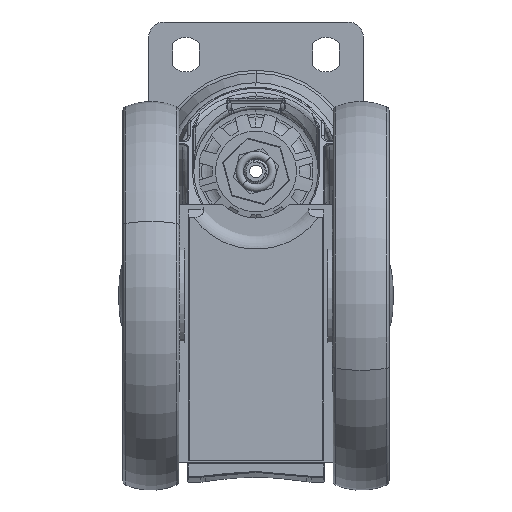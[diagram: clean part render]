
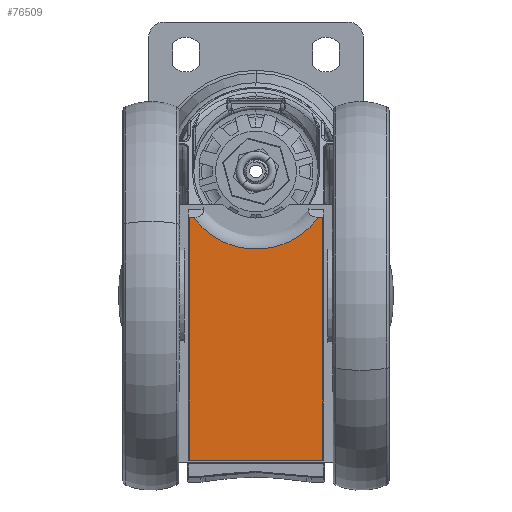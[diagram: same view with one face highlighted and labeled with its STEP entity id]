
A CAD part, front view. The second image highlights one B-rep face of the part: STEP entity #76509.
In plain terms, the highlighted planar face has unit normal (0, -1, 0).
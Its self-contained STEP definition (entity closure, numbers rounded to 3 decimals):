
#76326=DIRECTION('',(0.,0.,1.));
#76327=VECTOR('',#76326,78.014);
#76328=CARTESIAN_POINT('',(-21.45,-14.3,-52.8));
#76329=LINE('',#76328,#76327);
#76330=DIRECTION('',(-1.,0.,0.));
#76331=VECTOR('',#76330,1.291);
#76332=CARTESIAN_POINT('',(-20.159,-14.3,25.214));
#76333=LINE('',#76332,#76331);
#76334=DIRECTION('',(-1.,0.,0.));
#76335=VECTOR('',#76334,1.291);
#76336=CARTESIAN_POINT('',(21.45,-14.3,25.214));
#76337=LINE('',#76336,#76335);
#76338=DIRECTION('',(0.,0.,1.));
#76339=VECTOR('',#76338,78.014);
#76340=CARTESIAN_POINT('',(21.45,-14.3,-52.8));
#76341=LINE('',#76340,#76339);
#76342=DIRECTION('',(-1.,0.,0.));
#76343=VECTOR('',#76342,42.9);
#76344=CARTESIAN_POINT('',(21.45,-14.3,-52.8));
#76345=LINE('',#76344,#76343);
#76365=CARTESIAN_POINT('',(21.45,-14.3,25.214));
#76383=CARTESIAN_POINT('',(20.159,-14.3,25.214));
#76397=CARTESIAN_POINT('',(-21.45,-14.3,25.214));
#76417=CARTESIAN_POINT('',(-20.159,-14.3,25.214));
#76440=CARTESIAN_POINT('',(0.,-14.3,40.));
#76441=DIRECTION('',(0.,1.,0.));
#76442=DIRECTION('',(0.806,0.,-0.591));
#76443=AXIS2_PLACEMENT_3D('',#76440,#76441,#76442);
#76464=VERTEX_POINT('',#76417);
#76469=VERTEX_POINT('',#76383);
#76477=VERTEX_POINT('',#76397);
#76478=CARTESIAN_POINT('',(-21.45,-14.3,-52.8));
#76479=VERTEX_POINT('',#76478);
#76484=VERTEX_POINT('',#76365);
#76488=CARTESIAN_POINT('',(21.45,-14.3,-52.8));
#76489=VERTEX_POINT('',#76488);
#76490=CARTESIAN_POINT('',(0.,-14.3,0.));
#76491=DIRECTION('',(0.,1.,0.));
#76492=DIRECTION('',(0.,0.,-1.));
#76493=AXIS2_PLACEMENT_3D('',#76490,#76491,#76492);
#76494=PLANE('',#76493);
#76496=ORIENTED_EDGE('',*,*,#76495,.T.);
#76498=ORIENTED_EDGE('',*,*,#76497,.F.);
#76500=ORIENTED_EDGE('',*,*,#76499,.F.);
#76502=ORIENTED_EDGE('',*,*,#76501,.F.);
#76504=ORIENTED_EDGE('',*,*,#76503,.F.);
#76506=ORIENTED_EDGE('',*,*,#76505,.T.);
#76507=EDGE_LOOP('',(#76496,#76498,#76500,#76502,#76504,#76506));
#76508=FACE_OUTER_BOUND('',#76507,.F.);
#76444=CIRCLE('',#76443,25.);
#76495=EDGE_CURVE('',#76479,#76477,#76329,.T.);
#76497=EDGE_CURVE('',#76464,#76477,#76333,.T.);
#76499=EDGE_CURVE('',#76469,#76464,#76444,.T.);
#76501=EDGE_CURVE('',#76484,#76469,#76337,.T.);
#76503=EDGE_CURVE('',#76489,#76484,#76341,.T.);
#76505=EDGE_CURVE('',#76489,#76479,#76345,.T.);
#76509=ADVANCED_FACE('',(#76508),#76494,.F.);
